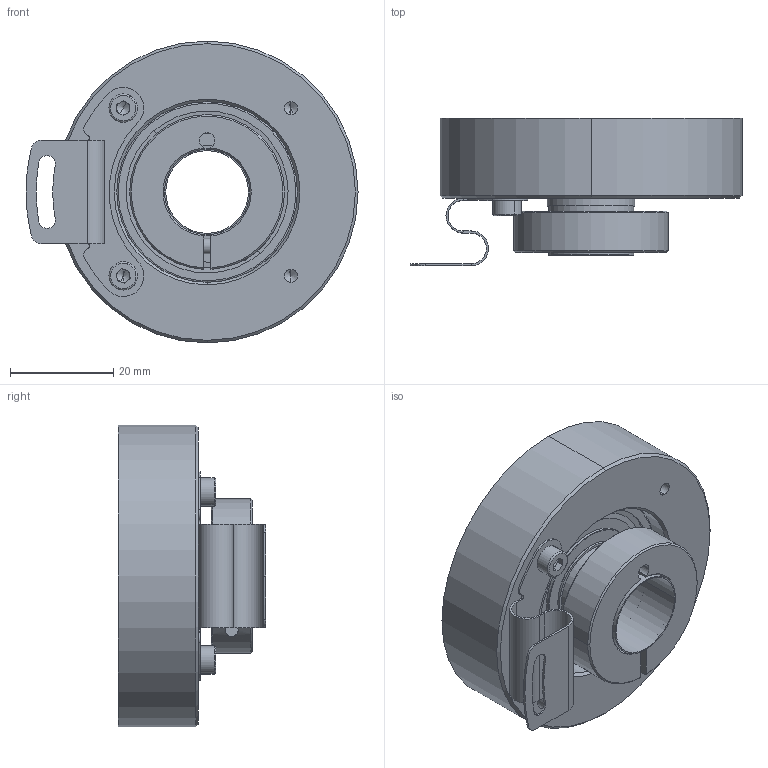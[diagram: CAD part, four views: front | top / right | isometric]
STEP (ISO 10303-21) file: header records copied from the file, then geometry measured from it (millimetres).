
FILE_DESCRIPTION (( 'STEP AP214' ), '1' );
FILE_NAME ('drawing-ucd-hgt0-q5b-n.STEP', '2017-02-03T16:14:30', ( '' ), ( '' ), 'SwSTEP 2.0', 'SolidWorks 2015', '' );
FILE_SCHEMA (( 'AUTOMOTIVE_DESIGN' ));
Length unit declared in the file: millimetre
Products named in the file (1): drawing-ucd-hgt0-q5b-n
Bounding box: 64.35 x 28.6 x 58.5 mm (x, y, z)
Volume: 36818.2 mm3; surface area: 24039.7 mm2
Topology: 24 solids, 24 shells, 349 faces, 793 edges, 451 vertices
Faces by surface type: cylinder 116, plane 91, cone 70, bspline 60, torus 12
Entity records: 14802 total; most frequent: CARTESIAN_POINT 3172, DIRECTION 1668, ORIENTED_EDGE 1466, EDGE_CURVE 733, AXIS2_PLACEMENT_3D 687, VERTEX_POINT 451, CIRCLE 397, EDGE_LOOP 396
